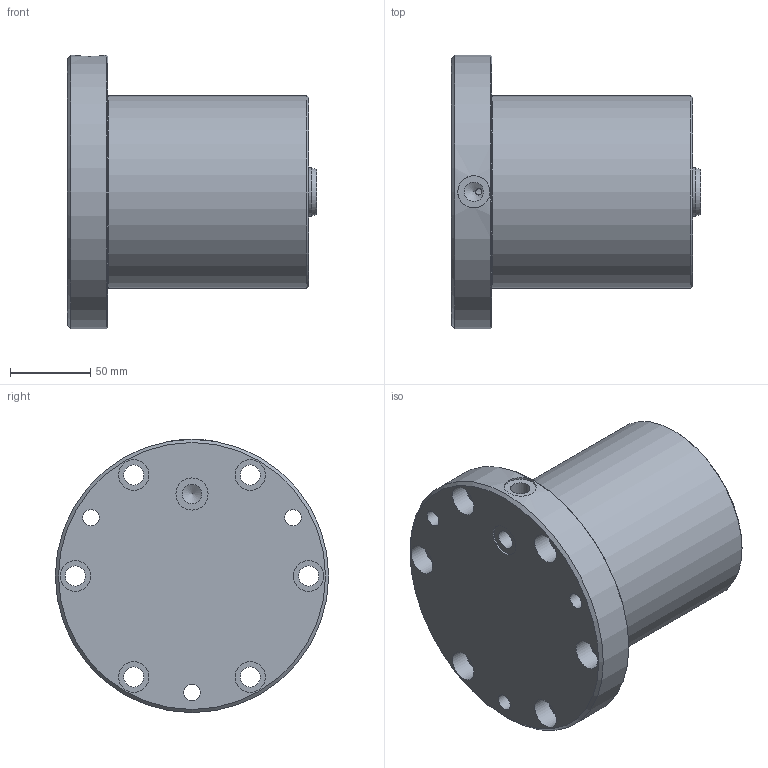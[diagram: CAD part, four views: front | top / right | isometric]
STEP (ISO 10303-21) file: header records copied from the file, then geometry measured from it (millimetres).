
FILE_DESCRIPTION( ( 'Unknown' ), '1' );
FILE_NAME( 'F:/JAKOB-STEP+IGES-Dateien/STEP-Dateien/ZDF/ZDFu 10000.stp', 'Unknown', ( 'Unknown' ), ( 'Unknown' ), 'XStep 1.0', 'Unknown', ' ' );
FILE_SCHEMA( ( 'CONFIG_CONTROL_DESIGN' ) );
Length unit declared in the file: millimetre
Products named in the file (1): 1
Bounding box: 155 x 170 x 170 mm (x, y, z)
Volume: 1941787.4 mm3; surface area: 114741.6 mm2
Topology: 1 solids, 1 shells, 43 faces, 97 edges, 64 vertices
Faces by surface type: cylinder 23, plane 12, cone 7, torus 1
Full cylindrical faces by diameter (mm): 4 x1, 10.2 x3, 12 x2, 12.5 x6, 19 x6, 20 x2, 30 x1, 120 x1, 170 x1
Entity records: 1237 total; most frequent: CARTESIAN_POINT 350, DIRECTION 186, EDGE_LOOP 104, ORIENTED_EDGE 104, AXIS2_PLACEMENT_3D 93, FACE_OUTER_BOUND 67, VERTEX_POINT 54, EDGE_CURVE 52
